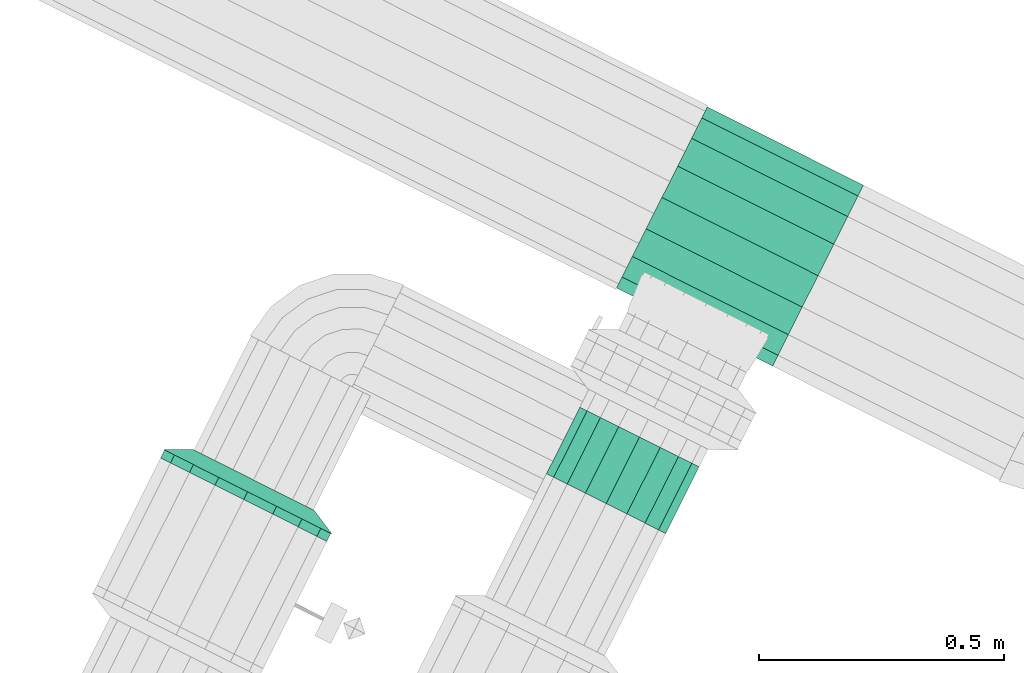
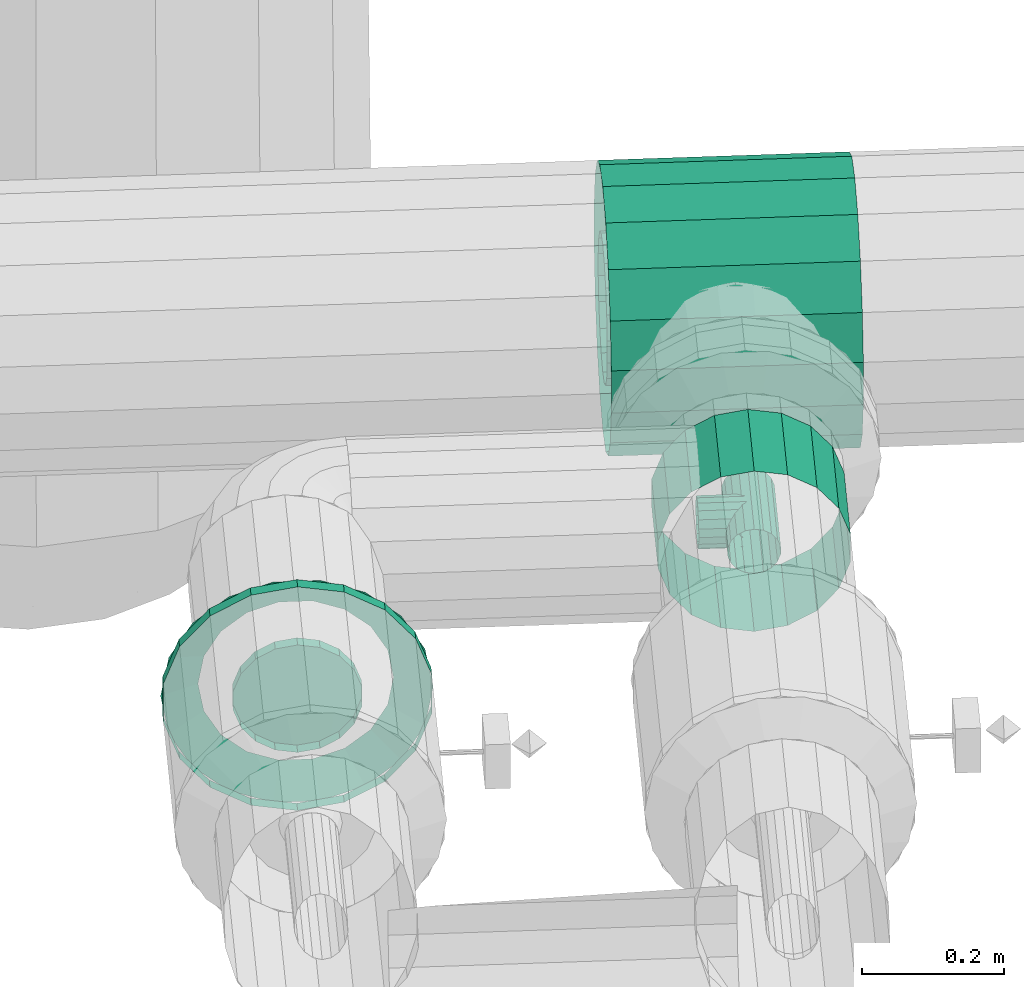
# One storey, part 42 of 152: 3 flow fittings.
"""IFC2X3 building model written with IfcOpenShell, lengths in metres."""

from ifc_helpers import new_model, si_unit, derived_unit, direction, frame, origin, place, context, subcontext, project, spatial, face_set, surface_model, source, transform, mapped, material, type_object, type_shapes, element, save


model = new_model("IFC2X3")

# Units and contexts
model_context = context("Model", 3, precision=5.2338327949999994e-05, world=origin(), true_north=direction((0.0, 1.0)))
body_context = subcontext(model_context, "Body", "Model", "MODEL_VIEW")
ifc_project = project(units=[si_unit("LENGTHUNIT", "METRE"), si_unit("AREAUNIT", "SQUARE_METRE"), si_unit("VOLUMEUNIT", "CUBIC_METRE"), si_unit("MASSUNIT", "GRAM", prefix="KILO"), si_unit("PLANEANGLEUNIT", "RADIAN"), derived_unit("THERMALTRANSMITTANCEUNIT", [(si_unit("MASSUNIT", "GRAM", prefix="KILO"), 1), (si_unit("THERMODYNAMICTEMPERATUREUNIT", "KELVIN"), -1), (si_unit("TIMEUNIT", "SECOND"), -3)])], contexts=[model_context])

# Site, building, storey
site_placement = place(None, frame((0.0, 0.0, 0.0), z_axis=(0.0, 0.0, 1.0), x_axis=(0.8939966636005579, -0.4480736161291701, 0.0)))
site = spatial("IfcSite", under=ifc_project, at=site_placement, Name="Default", CompositionType="ELEMENT")
building_placement = place(site_placement, origin())
building = spatial("IfcBuilding", under=site, at=building_placement, CompositionType="ELEMENT")
storey_placement = place(building_placement, frame((0.0, 0.0, 2.7499999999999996)))
storey = spatial("IfcBuildingStorey", under=building, at=storey_placement, Name="1. Obergeschoss", CompositionType="ELEMENT", Elevation=2.7499999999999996)

# Flow fittings
ifc_material = material(Name="IfcSurfaceStyle #1741")
distribution_element_type_1 = type_object("IfcDistributionElementType", Name="Abzweigstück 253225:Abzweigstück 253225", material=ifc_material)
shared_shape_1 = source(origin(), body_context, "Body", "SurfaceModel", [
    surface_model("IfcFaceBasedSurfaceModel", [(15.23524256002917, 8.012208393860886, 5.745190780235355), (15.23524256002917, 8.049676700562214, 5.738584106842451), (14.879242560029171, 8.049676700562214, 5.738584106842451), (14.879242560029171, 8.012208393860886, 5.745190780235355), (15.23524256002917, 8.082625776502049, 5.719560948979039), (14.879242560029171, 8.082625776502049, 5.719560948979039), (15.23524256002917, 8.107081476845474, 5.690415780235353), (14.879242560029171, 8.107081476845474, 5.690415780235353), (15.23524256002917, 8.120094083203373, 5.6546639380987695), (14.879242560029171, 8.120094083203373, 5.6546639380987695), (15.23524256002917, 8.120094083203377, 5.616617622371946), (14.879242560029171, 8.120094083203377, 5.616617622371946), (15.23524256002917, 8.107081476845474, 5.580865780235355), (14.879242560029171, 8.107081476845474, 5.580865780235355), (15.23524256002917, 8.082625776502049, 5.551720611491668), (14.879242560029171, 8.082625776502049, 5.551720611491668), (15.23524256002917, 8.049676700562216, 5.53269745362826), (14.879242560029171, 8.049676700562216, 5.53269745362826), (15.23524256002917, 8.012208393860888, 5.526090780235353), (14.879242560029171, 8.012208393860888, 5.526090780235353), (15.23524256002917, 7.974740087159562, 5.532697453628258), (14.879242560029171, 7.974740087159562, 5.532697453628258), (15.23524256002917, 7.9417910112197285, 5.551720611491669), (14.879242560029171, 7.9417910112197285, 5.551720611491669), (15.23524256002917, 7.917335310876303, 5.580865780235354), (14.879242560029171, 7.917335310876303, 5.580865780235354), (15.23524256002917, 7.9043227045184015, 5.616617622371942), (14.879242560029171, 7.9043227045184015, 5.616617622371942), (15.23524256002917, 7.904322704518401, 5.654663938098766), (14.879242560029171, 7.904322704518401, 5.654663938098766), (15.23524256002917, 7.917335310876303, 5.690415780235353), (14.879242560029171, 7.917335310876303, 5.690415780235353), (15.23524256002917, 7.941791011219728, 5.719560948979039), (14.879242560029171, 7.941791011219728, 5.719560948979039), (15.23524256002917, 7.974740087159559, 5.73858410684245), (14.879242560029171, 7.974740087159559, 5.73858410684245), (15.23524256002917, 8.012208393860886, 5.845190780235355), (15.23524256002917, 8.083878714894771, 5.832553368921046), (14.879242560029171, 8.083878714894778, 5.832553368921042), (14.879242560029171, 8.012208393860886, 5.845190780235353), (15.23524256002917, 8.1469045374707, 5.796165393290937), (14.879242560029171, 8.1469045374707, 5.796165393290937), (15.23524256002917, 8.193684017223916, 5.740415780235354), (14.879242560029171, 8.193684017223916, 5.740415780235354), (15.23524256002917, 8.218574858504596, 5.672028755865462), (14.879242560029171, 8.218574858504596, 5.672028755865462), (15.23524256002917, 8.218574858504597, 5.599252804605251), (14.879242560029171, 8.218574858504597, 5.599252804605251), (15.23524256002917, 8.193684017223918, 5.530865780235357), (14.879242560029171, 8.193684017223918, 5.530865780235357), (15.23524256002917, 8.146904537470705, 5.475116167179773), (14.879242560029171, 8.146904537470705, 5.475116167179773), (15.23524256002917, 8.083878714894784, 5.438728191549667), (14.879242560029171, 8.083878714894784, 5.438728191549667), (15.23524256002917, 8.012208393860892, 5.426090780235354), (14.879242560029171, 8.012208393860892, 5.426090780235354), (15.23524256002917, 7.940538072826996, 5.438728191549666), (14.879242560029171, 7.940538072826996, 5.438728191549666), (15.23524256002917, 7.877512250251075, 5.47511616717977), (14.879242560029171, 7.877512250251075, 5.47511616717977), (15.23524256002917, 7.8307327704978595, 5.530865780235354), (14.879242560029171, 7.8307327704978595, 5.530865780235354), (15.23524256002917, 7.805841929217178, 5.599252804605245), (14.879242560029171, 7.805841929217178, 5.599252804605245), (15.23524256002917, 7.805841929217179, 5.6720287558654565), (14.879242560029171, 7.805841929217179, 5.6720287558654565), (15.23524256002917, 7.830732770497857, 5.740415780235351), (14.879242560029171, 7.830732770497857, 5.740415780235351), (15.23524256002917, 7.877512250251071, 5.796165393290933), (14.879242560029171, 7.877512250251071, 5.796165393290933), (15.23524256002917, 7.940538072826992, 5.83255336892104), (14.879242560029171, 7.940538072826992, 5.83255336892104), (15.012792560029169, 7.9026583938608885, 5.635640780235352), (15.015473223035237, 7.9037184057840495, 5.620437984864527), (15.015473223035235, 7.860208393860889, 5.620437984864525), (15.012792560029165, 7.860208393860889, 5.635640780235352), (15.02319188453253, 7.906449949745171, 5.607068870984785), (15.023191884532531, 7.860208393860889, 5.607068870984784), (15.035017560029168, 7.9096445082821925, 5.597145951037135), (15.035017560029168, 7.860208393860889, 5.597145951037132), (15.049523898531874, 7.911784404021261, 5.591866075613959), (15.049523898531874, 7.860208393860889, 5.591866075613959), (15.064961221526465, 7.911784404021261, 5.591866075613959), (15.064961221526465, 7.860208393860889, 5.591866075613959), (15.07946756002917, 7.9096445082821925, 5.597145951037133), (15.079467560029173, 7.860208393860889, 5.597145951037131), (15.091293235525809, 7.906449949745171, 5.607068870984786), (15.091293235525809, 7.860208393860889, 5.607068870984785), (15.099011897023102, 7.9037184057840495, 5.620437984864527), (15.099011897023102, 7.860208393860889, 5.620437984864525), (15.101692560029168, 7.9026583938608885, 5.635640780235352), (15.10169256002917, 7.860208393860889, 5.635640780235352), (15.099011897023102, 7.903718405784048, 5.650843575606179), (15.099011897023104, 7.860208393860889, 5.650843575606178), (15.091293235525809, 7.90644994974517, 5.664212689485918), (15.091293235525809, 7.860208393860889, 5.664212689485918), (15.07946756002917, 7.909644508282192, 5.67413560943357), (15.07946756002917, 7.860208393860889, 5.674135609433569), (15.064961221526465, 7.911784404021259, 5.679415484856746), (15.064961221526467, 7.860208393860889, 5.679415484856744), (15.049523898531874, 7.911784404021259, 5.679415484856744), (15.049523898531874, 7.860208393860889, 5.679415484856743), (15.035017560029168, 7.909644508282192, 5.6741356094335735), (15.035017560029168, 7.860208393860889, 5.674135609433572), (15.023191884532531, 7.90644994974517, 5.66421268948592), (15.023191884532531, 7.860208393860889, 5.664212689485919), (15.015473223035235, 7.903718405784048, 5.650843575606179), (15.015473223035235, 7.860208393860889, 5.650843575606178)], [face_set([[[0, 1, 2, 3]], [[1, 4, 5, 2]], [[4, 6, 7, 5]], [[6, 8, 9, 7]], [[8, 10, 11, 9]], [[10, 12, 13, 11]], [[12, 14, 15, 13]], [[14, 16, 17, 15]], [[16, 18, 19, 17]], [[18, 20, 21, 19]], [[20, 22, 23, 21]], [[22, 24, 25, 23]], [[24, 26, 27, 25]], [[26, 28, 29, 27]], [[28, 30, 31, 29]], [[30, 32, 33, 31]], [[32, 34, 35, 33]], [[34, 0, 3, 35]], [[36, 37, 38, 39]], [[37, 40, 41, 38]], [[40, 42, 43, 41]], [[42, 44, 45, 43]], [[44, 46, 47, 45]], [[46, 48, 49, 47]], [[48, 50, 51, 49]], [[50, 52, 53, 51]], [[52, 54, 55, 53]], [[54, 56, 57, 55]], [[56, 58, 59, 57]], [[58, 60, 61, 59]], [[60, 62, 63, 61]], [[62, 64, 65, 63]], [[64, 66, 67, 65]], [[66, 68, 69, 67]], [[68, 70, 71, 69]], [[70, 36, 39, 71]], [[72, 73, 74, 75]], [[73, 76, 77, 74]], [[76, 78, 79, 77]], [[78, 80, 81, 79]], [[80, 82, 83, 81]], [[82, 84, 85, 83]], [[84, 86, 87, 85]], [[86, 88, 89, 87]], [[88, 90, 91, 89]], [[90, 92, 93, 91]], [[92, 94, 95, 93]], [[94, 96, 97, 95]], [[96, 98, 99, 97]], [[98, 100, 101, 99]], [[100, 102, 103, 101]], [[102, 104, 105, 103]], [[104, 106, 107, 105]], [[106, 72, 75, 107]]])]),
])
type_shapes(distribution_element_type_1, [shared_shape_1])
flow_fitting_1_placement = place(storey_placement, frame((0.0, 0.0, -2.7499999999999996)))
element("IfcFlowFitting", 1, at=flow_fitting_1_placement, inside=storey, type_object=distribution_element_type_1, material=ifc_material, Name="Abzweigstück", ObjectType="Abzweigstück", context=body_context, shape_type="MappedRepresentation", body=[
    mapped(shared_shape_1, transform((0.0, 0.0, 0.0), scale=1.0)),
])
distribution_element_type_2 = type_object("IfcDistributionElementType", Name="Abzweigstück 253418:Abzweigstück 253418", material=ifc_material)
shared_shape_2 = source(origin(), body_context, "Body", "SurfaceModel", [
    surface_model("IfcFaceBasedSurfaceModel", [(15.057242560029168, 7.555239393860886, 5.597590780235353), (15.070256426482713, 7.555239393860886, 5.5998854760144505), (15.070256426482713, 7.403239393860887, 5.5998854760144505), (15.057242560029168, 7.403239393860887, 5.597590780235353), (15.08170062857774, 7.555239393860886, 5.606492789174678), (15.08170062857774, 7.403239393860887, 5.606492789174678), (15.090194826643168, 7.555239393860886, 5.616615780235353), (15.090194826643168, 7.403239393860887, 5.616615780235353), (15.094714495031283, 7.555239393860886, 5.629033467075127), (15.094714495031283, 7.403239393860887, 5.629033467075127), (15.094714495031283, 7.555239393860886, 5.6422480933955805), (15.094714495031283, 7.403239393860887, 5.6422480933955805), (15.090194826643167, 7.555239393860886, 5.654665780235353), (15.090194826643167, 7.403239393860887, 5.654665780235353), (15.08170062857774, 7.555239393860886, 5.66478877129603), (15.08170062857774, 7.403239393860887, 5.66478877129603), (15.07025642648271, 7.555239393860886, 5.671396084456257), (15.07025642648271, 7.403239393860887, 5.671396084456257), (15.057242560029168, 7.555239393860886, 5.673690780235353), (15.057242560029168, 7.403239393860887, 5.673690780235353), (15.044228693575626, 7.555239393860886, 5.671396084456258), (15.044228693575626, 7.403239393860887, 5.671396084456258), (15.032784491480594, 7.555239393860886, 5.664788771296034), (15.032784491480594, 7.403239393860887, 5.664788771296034), (15.02429029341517, 7.555239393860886, 5.654665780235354), (15.02429029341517, 7.403239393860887, 5.654665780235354), (15.019770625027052, 7.555239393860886, 5.642248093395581), (15.019770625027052, 7.403239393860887, 5.642248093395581), (15.019770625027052, 7.555239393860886, 5.6290334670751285), (15.019770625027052, 7.403239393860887, 5.6290334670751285), (15.02429029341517, 7.555239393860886, 5.616615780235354), (15.02429029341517, 7.403239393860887, 5.616615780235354), (15.032784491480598, 7.555239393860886, 5.606492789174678), (15.032784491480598, 7.403239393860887, 5.606492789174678), (15.044228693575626, 7.555239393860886, 5.599885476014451), (15.044228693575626, 7.403239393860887, 5.599885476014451), (15.019192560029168, 7.4411893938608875, 5.635640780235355), (15.021487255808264, 7.443484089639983, 5.648654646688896), (14.98124256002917, 7.443484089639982, 5.6486546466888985), (14.98124256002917, 7.4411893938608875, 5.635640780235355), (15.028094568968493, 7.4500914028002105, 5.660098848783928), (14.981242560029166, 7.4500914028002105, 5.660098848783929), (15.03821756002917, 7.460214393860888, 5.668593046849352), (14.98124256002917, 7.460214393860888, 5.668593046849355), (15.050635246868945, 7.472632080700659, 5.673112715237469), (14.981242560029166, 7.472632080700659, 5.67311271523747), (15.050635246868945, 7.485846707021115, 5.673112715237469), (14.981242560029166, 7.485846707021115, 5.673112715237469), (15.03821756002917, 7.498264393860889, 5.668593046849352), (14.98124256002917, 7.498264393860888, 5.668593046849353), (15.028094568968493, 7.508387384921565, 5.660098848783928), (14.981242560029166, 7.508387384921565, 5.660098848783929), (15.021487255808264, 7.514994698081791, 5.648654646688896), (14.98124256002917, 7.514994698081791, 5.6486546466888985), (15.019192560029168, 7.517289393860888, 5.635640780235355), (14.98124256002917, 7.517289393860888, 5.635640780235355), (15.021487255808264, 7.514994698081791, 5.622626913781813), (14.981242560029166, 7.514994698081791, 5.622626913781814), (15.028094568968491, 7.508387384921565, 5.611182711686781), (14.98124256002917, 7.508387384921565, 5.611182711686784), (15.03821756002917, 7.498264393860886, 5.602688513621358), (14.981242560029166, 7.498264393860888, 5.6026885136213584), (15.050635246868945, 7.485846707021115, 5.598168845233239), (14.98124256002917, 7.485846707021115, 5.598168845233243), (15.050635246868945, 7.472632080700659, 5.598168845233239), (14.98124256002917, 7.472632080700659, 5.598168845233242), (15.03821756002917, 7.460214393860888, 5.602688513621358), (14.981242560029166, 7.460214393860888, 5.6026885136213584), (15.028094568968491, 7.4500914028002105, 5.611182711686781), (14.98124256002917, 7.450091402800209, 5.611182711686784), (15.021487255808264, 7.443484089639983, 5.622626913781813), (14.981242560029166, 7.443484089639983, 5.622626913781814), (15.057242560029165, 7.555239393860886, 5.497590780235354), (15.104458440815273, 7.555239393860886, 5.505916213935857), (15.104458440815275, 7.403239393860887, 5.50591621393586), (15.057242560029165, 7.403239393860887, 5.497590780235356), (15.145979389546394, 7.555239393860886, 5.529888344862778), (15.145979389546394, 7.403239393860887, 5.529888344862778), (15.176797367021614, 7.555239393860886, 5.566615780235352), (15.176797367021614, 7.403239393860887, 5.566615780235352), (15.1931952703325, 7.555239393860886, 5.611668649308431), (15.1931952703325, 7.403239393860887, 5.611668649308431), (15.193195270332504, 7.555239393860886, 5.659612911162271), (15.193195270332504, 7.403239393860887, 5.659612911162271), (15.176797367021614, 7.555239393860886, 5.704665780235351), (15.176797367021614, 7.403239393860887, 5.704665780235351), (15.145979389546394, 7.555239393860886, 5.741393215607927), (15.145979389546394, 7.403239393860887, 5.741393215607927), (15.104458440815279, 7.555239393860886, 5.765365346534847), (15.104458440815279, 7.403239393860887, 5.765365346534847), (15.057242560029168, 7.555239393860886, 5.773690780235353), (15.057242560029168, 7.403239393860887, 5.773690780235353), (15.010026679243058, 7.555239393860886, 5.76536534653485), (15.010026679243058, 7.403239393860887, 5.76536534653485), (14.968505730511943, 7.555239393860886, 5.741393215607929), (14.968505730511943, 7.403239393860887, 5.741393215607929), (14.937687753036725, 7.555239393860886, 5.704665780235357), (14.937687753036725, 7.403239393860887, 5.704665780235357), (14.921289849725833, 7.555239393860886, 5.659612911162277), (14.921289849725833, 7.403239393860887, 5.659612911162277), (14.92128984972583, 7.555239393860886, 5.611668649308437), (14.92128984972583, 7.403239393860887, 5.611668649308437), (14.937687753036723, 7.555239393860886, 5.566615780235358), (14.937687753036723, 7.403239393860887, 5.566615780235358), (14.96850573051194, 7.555239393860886, 5.529888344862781), (14.96850573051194, 7.403239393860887, 5.529888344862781), (15.01002667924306, 7.555239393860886, 5.505916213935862), (15.01002667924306, 7.403239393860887, 5.505916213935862)], [face_set([[[0, 1, 2, 3]], [[1, 4, 5, 2]], [[4, 6, 7, 5]], [[6, 8, 9, 7]], [[8, 10, 11, 9]], [[10, 12, 13, 11]], [[12, 14, 15, 13]], [[14, 16, 17, 15]], [[16, 18, 19, 17]], [[18, 20, 21, 19]], [[20, 22, 23, 21]], [[22, 24, 25, 23]], [[24, 26, 27, 25]], [[26, 28, 29, 27]], [[28, 30, 31, 29]], [[30, 32, 33, 31]], [[32, 34, 35, 33]], [[34, 0, 3, 35]], [[36, 37, 38, 39]], [[37, 40, 41, 38]], [[40, 42, 43, 41]], [[42, 44, 45, 43]], [[44, 46, 47, 45]], [[46, 48, 49, 47]], [[48, 50, 51, 49]], [[50, 52, 53, 51]], [[52, 54, 55, 53]], [[54, 56, 57, 55]], [[56, 58, 59, 57]], [[58, 60, 61, 59]], [[60, 62, 63, 61]], [[62, 64, 65, 63]], [[64, 66, 67, 65]], [[66, 68, 69, 67]], [[68, 70, 71, 69]], [[70, 36, 39, 71]], [[72, 73, 74, 75]], [[73, 76, 77, 74]], [[76, 78, 79, 77]], [[78, 80, 81, 79]], [[80, 82, 83, 81]], [[82, 84, 85, 83]], [[84, 86, 87, 85]], [[86, 88, 89, 87]], [[88, 90, 91, 89]], [[90, 92, 93, 91]], [[92, 94, 95, 93]], [[94, 96, 97, 95]], [[96, 98, 99, 97]], [[98, 100, 101, 99]], [[100, 102, 103, 101]], [[102, 104, 105, 103]], [[104, 106, 107, 105]], [[106, 72, 75, 107]]])]),
])
type_shapes(distribution_element_type_2, [shared_shape_2])
flow_fitting_2_placement = place(storey_placement, frame((0.0, 0.0, -2.7499999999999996)))
element("IfcFlowFitting", 2, at=flow_fitting_2_placement, inside=storey, type_object=distribution_element_type_2, material=ifc_material, Name="Abzweigstück", ObjectType="Abzweigstück", context=body_context, shape_type="MappedRepresentation", body=[
    mapped(shared_shape_2, transform((0.0, 0.0, 0.0), scale=1.0)),
])
distribution_element_type_3 = type_object("IfcDistributionElementType", Name="Flansch 259105:Flansch 259105", material=ifc_material)
shared_shape_3 = source(origin(), body_context, "Body", "SurfaceModel", [
    surface_model("IfcFaceBasedSurfaceModel", [(14.431319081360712, 7.1244947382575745, 5.635640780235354), (14.429024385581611, 7.124494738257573, 5.648654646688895), (14.435555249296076, 7.097494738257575, 5.65103168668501), (14.438269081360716, 7.097494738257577, 5.635640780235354), (14.422417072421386, 7.1244947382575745, 5.660098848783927), (14.427741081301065, 7.097494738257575, 5.664566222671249), (14.41229408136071, 7.124494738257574, 5.668593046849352), (14.415769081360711, 7.097494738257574, 5.674611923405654), (14.399876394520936, 7.124494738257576, 5.673112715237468), (14.401083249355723, 7.097494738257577, 5.679957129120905), (14.386661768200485, 7.1244947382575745, 5.673112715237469), (14.385454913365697, 7.097494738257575, 5.679957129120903), (14.37424408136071, 7.1244947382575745, 5.6685930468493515), (14.370769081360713, 7.097494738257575, 5.674611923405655), (14.364121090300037, 7.1244947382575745, 5.660098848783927), (14.358797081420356, 7.097494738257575, 5.664566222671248), (14.357513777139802, 7.124494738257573, 5.648654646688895), (14.350982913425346, 7.097494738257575, 5.65103168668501), (14.355219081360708, 7.1244947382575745, 5.635640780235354), (14.34826908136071, 7.097494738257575, 5.635640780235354), (14.357513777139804, 7.124494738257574, 5.6226269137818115), (14.350982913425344, 7.097494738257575, 5.6202498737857), (14.364121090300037, 7.124494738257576, 5.611182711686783), (14.358797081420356, 7.097494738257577, 5.606715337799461), (14.374244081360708, 7.124494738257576, 5.602688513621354), (14.370769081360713, 7.097494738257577, 5.5966696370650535), (14.386661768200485, 7.1244947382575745, 5.59816884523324), (14.385454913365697, 7.097494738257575, 5.591324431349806), (14.399876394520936, 7.1244947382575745, 5.598168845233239), (14.401083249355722, 7.097494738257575, 5.591324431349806), (14.412294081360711, 7.1244947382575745, 5.602688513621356), (14.415769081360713, 7.097494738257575, 5.596669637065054), (14.422417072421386, 7.124494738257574, 5.611182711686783), (14.427741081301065, 7.097494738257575, 5.606715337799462), (14.42902438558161, 7.124494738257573, 5.622626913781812), (14.435555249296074, 7.097494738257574, 5.620249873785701), (14.393269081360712, 7.097494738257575, 5.543140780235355), (14.424905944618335, 7.097494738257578, 5.548719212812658), (14.424905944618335, 7.0794947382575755, 5.548719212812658), (14.393269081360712, 7.0794947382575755, 5.543140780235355), (14.452726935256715, 7.097494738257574, 5.564781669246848), (14.452726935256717, 7.0794947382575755, 5.56478166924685), (14.47337643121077, 7.097494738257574, 5.589390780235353), (14.47337643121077, 7.079494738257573, 5.589390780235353), (14.484363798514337, 7.097494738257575, 5.619578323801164), (14.484363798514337, 7.0794947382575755, 5.619578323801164), (14.484363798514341, 7.097494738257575, 5.651703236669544), (14.484363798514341, 7.079494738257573, 5.651703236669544), (14.47337643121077, 7.097494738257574, 5.681890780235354), (14.47337643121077, 7.079494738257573, 5.681890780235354), (14.452726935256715, 7.097494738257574, 5.706499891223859), (14.452726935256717, 7.0794947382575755, 5.70649989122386), (14.424905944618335, 7.097494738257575, 5.722562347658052), (14.424905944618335, 7.079494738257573, 5.722562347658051), (14.393269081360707, 7.097494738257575, 5.7281407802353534), (14.393269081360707, 7.079494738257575, 5.7281407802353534), (14.361632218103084, 7.0974947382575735, 5.722562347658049), (14.361632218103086, 7.0794947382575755, 5.722562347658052), (14.333811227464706, 7.097494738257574, 5.70649989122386), (14.333811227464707, 7.0794947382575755, 5.706499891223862), (14.313161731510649, 7.0974947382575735, 5.681890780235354), (14.313161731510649, 7.079494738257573, 5.681890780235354), (14.30217436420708, 7.097494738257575, 5.651703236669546), (14.30217436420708, 7.079494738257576, 5.651703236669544), (14.30217436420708, 7.097494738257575, 5.619578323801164), (14.302174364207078, 7.079494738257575, 5.619578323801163), (14.313161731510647, 7.097494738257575, 5.589390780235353), (14.313161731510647, 7.079494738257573, 5.589390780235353), (14.333811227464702, 7.097494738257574, 5.564781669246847), (14.333811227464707, 7.079494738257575, 5.564781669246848), (14.361632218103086, 7.097494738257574, 5.548719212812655), (14.361632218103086, 7.079494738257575, 5.548719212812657), (14.393269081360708, 7.0974947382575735, 5.635640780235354), (14.53131908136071, 7.1244947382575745, 5.635640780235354), (14.522993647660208, 7.1244947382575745, 5.6828566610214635), (14.574159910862, 7.097494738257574, 5.701479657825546), (14.58576908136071, 7.097494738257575, 5.635640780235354), (14.49902151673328, 7.124494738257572, 5.724377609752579), (14.54073263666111, 7.0974947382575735, 5.759377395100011), (14.462294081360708, 7.124494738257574, 5.755195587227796), (14.489519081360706, 7.097494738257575, 5.8023506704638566), (14.417241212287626, 7.1244947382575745, 5.771593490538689), (14.426696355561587, 7.097494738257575, 5.825216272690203), (14.369296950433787, 7.124494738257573, 5.771593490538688), (14.359841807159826, 7.097494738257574, 5.825216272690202), (14.324244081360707, 7.1244947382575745, 5.755195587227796), (14.297019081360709, 7.097494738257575, 5.802350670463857), (14.287516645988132, 7.124494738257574, 5.724377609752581), (14.245805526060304, 7.097494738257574, 5.759377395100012), (14.263544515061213, 7.124494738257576, 5.6828566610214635), (14.212378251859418, 7.097494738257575, 5.701479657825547), (14.255219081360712, 7.124494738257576, 5.635640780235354), (14.200769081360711, 7.097494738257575, 5.635640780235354), (14.263544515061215, 7.124494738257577, 5.588424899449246), (14.212378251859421, 7.097494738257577, 5.569801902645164), (14.287516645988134, 7.124494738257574, 5.546903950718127), (14.245805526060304, 7.0974947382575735, 5.511904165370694), (14.32424408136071, 7.1244947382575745, 5.5160859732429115), (14.297019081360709, 7.097494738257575, 5.46893089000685), (14.36929695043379, 7.124494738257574, 5.499688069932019), (14.359841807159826, 7.097494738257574, 5.446065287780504), (14.417241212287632, 7.1244947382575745, 5.499688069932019), (14.426696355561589, 7.097494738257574, 5.446065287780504), (14.46229408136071, 7.124494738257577, 5.5160859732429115), (14.489519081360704, 7.097494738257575, 5.468930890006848), (14.499021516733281, 7.124494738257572, 5.546903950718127), (14.54073263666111, 7.097494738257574, 5.511904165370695), (14.522993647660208, 7.124494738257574, 5.588424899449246), (14.574159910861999, 7.097494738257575, 5.569801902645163), (14.393269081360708, 7.0974947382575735, 5.443140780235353), (14.4591079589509, 7.097494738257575, 5.454749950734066), (14.459107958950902, 7.0794947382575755, 5.454749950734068), (14.393269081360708, 7.079494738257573, 5.443140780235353), (14.51700569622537, 7.0974947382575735, 5.488177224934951), (14.51700569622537, 7.079494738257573, 5.488177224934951), (14.559978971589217, 7.097494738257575, 5.539390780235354), (14.559978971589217, 7.079494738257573, 5.539390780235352), (14.58284457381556, 7.097494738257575, 5.602213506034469), (14.582844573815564, 7.0794947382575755, 5.602213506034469), (14.58284457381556, 7.097494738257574, 5.669068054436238), (14.582844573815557, 7.079494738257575, 5.669068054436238), (14.559978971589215, 7.097494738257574, 5.731890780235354), (14.559978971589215, 7.0794947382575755, 5.731890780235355), (14.51700569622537, 7.097494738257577, 5.783104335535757), (14.51700569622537, 7.079494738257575, 5.783104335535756), (14.4591079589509, 7.097494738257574, 5.816531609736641), (14.4591079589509, 7.079494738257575, 5.816531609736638), (14.393269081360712, 7.097494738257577, 5.828140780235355), (14.393269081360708, 7.079494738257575, 5.828140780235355), (14.327430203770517, 7.097494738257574, 5.816531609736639), (14.327430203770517, 7.079494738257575, 5.816531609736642), (14.26953246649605, 7.097494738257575, 5.783104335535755), (14.26953246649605, 7.079494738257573, 5.783104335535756), (14.226559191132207, 7.097494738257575, 5.731890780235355), (14.226559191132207, 7.0794947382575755, 5.731890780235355), (14.203693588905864, 7.097494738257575, 5.669068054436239), (14.203693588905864, 7.0794947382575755, 5.669068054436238), (14.203693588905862, 7.097494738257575, 5.602213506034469), (14.203693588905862, 7.0794947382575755, 5.602213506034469), (14.226559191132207, 7.097494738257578, 5.539390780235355), (14.226559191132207, 7.0794947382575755, 5.5393907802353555), (14.26953246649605, 7.097494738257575, 5.488177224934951), (14.26953246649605, 7.079494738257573, 5.48817722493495), (14.327430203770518, 7.097494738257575, 5.454749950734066), (14.327430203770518, 7.079494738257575, 5.454749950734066)], [face_set([[[0, 1, 2, 3]], [[1, 4, 5, 2]], [[4, 6, 7, 5]], [[6, 8, 9, 7]], [[8, 10, 11, 9]], [[10, 12, 13, 11]], [[12, 14, 15, 13]], [[14, 16, 17, 15]], [[16, 18, 19, 17]], [[18, 20, 21, 19]], [[20, 22, 23, 21]], [[22, 24, 25, 23]], [[24, 26, 27, 25]], [[26, 28, 29, 27]], [[28, 30, 31, 29]], [[30, 32, 33, 31]], [[32, 34, 35, 33]], [[34, 0, 3, 35]], [[36, 37, 38, 39]], [[37, 40, 41, 38]], [[40, 42, 43, 41]], [[42, 44, 45, 43]], [[44, 46, 47, 45]], [[46, 48, 49, 47]], [[48, 50, 51, 49]], [[50, 52, 53, 51]], [[52, 54, 55, 53]], [[54, 56, 57, 55]], [[56, 58, 59, 57]], [[58, 60, 61, 59]], [[60, 62, 63, 61]], [[62, 64, 65, 63]], [[64, 66, 67, 65]], [[66, 68, 69, 67]], [[68, 70, 71, 69]], [[70, 36, 39, 71]], [[72, 37, 36]], [[72, 40, 37]], [[72, 42, 40]], [[72, 44, 42]], [[72, 46, 44]], [[72, 48, 46]], [[72, 50, 48]], [[72, 52, 50]], [[72, 54, 52]], [[72, 56, 54]], [[72, 58, 56]], [[72, 60, 58]], [[72, 62, 60]], [[72, 64, 62]], [[72, 66, 64]], [[72, 68, 66]], [[72, 70, 68]], [[72, 36, 70]], [[73, 74, 75, 76]], [[74, 77, 78, 75]], [[77, 79, 80, 78]], [[79, 81, 82, 80]], [[81, 83, 84, 82]], [[83, 85, 86, 84]], [[85, 87, 88, 86]], [[87, 89, 90, 88]], [[89, 91, 92, 90]], [[91, 93, 94, 92]], [[93, 95, 96, 94]], [[95, 97, 98, 96]], [[97, 99, 100, 98]], [[99, 101, 102, 100]], [[101, 103, 104, 102]], [[103, 105, 106, 104]], [[105, 107, 108, 106]], [[107, 73, 76, 108]], [[109, 110, 111, 112]], [[110, 113, 114, 111]], [[113, 115, 116, 114]], [[115, 117, 118, 116]], [[117, 119, 120, 118]], [[119, 121, 122, 120]], [[121, 123, 124, 122]], [[123, 125, 126, 124]], [[125, 127, 128, 126]], [[127, 129, 130, 128]], [[129, 131, 132, 130]], [[131, 133, 134, 132]], [[133, 135, 136, 134]], [[135, 137, 138, 136]], [[137, 139, 140, 138]], [[139, 141, 142, 140]], [[141, 143, 144, 142]], [[143, 109, 112, 144]]])]),
])
type_shapes(distribution_element_type_3, [shared_shape_3])
flow_fitting_3_placement = place(storey_placement, frame((0.0, 0.0, -2.7499999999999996)))
element("IfcFlowFitting", 3, at=flow_fitting_3_placement, inside=storey, type_object=distribution_element_type_3, material=ifc_material, Name="Flansch", ObjectType="Flansch", context=body_context, shape_type="MappedRepresentation", body=[
    mapped(shared_shape_3, transform((0.0, 0.0, 0.0), scale=1.0)),
])

save(model, "model.ifc")
